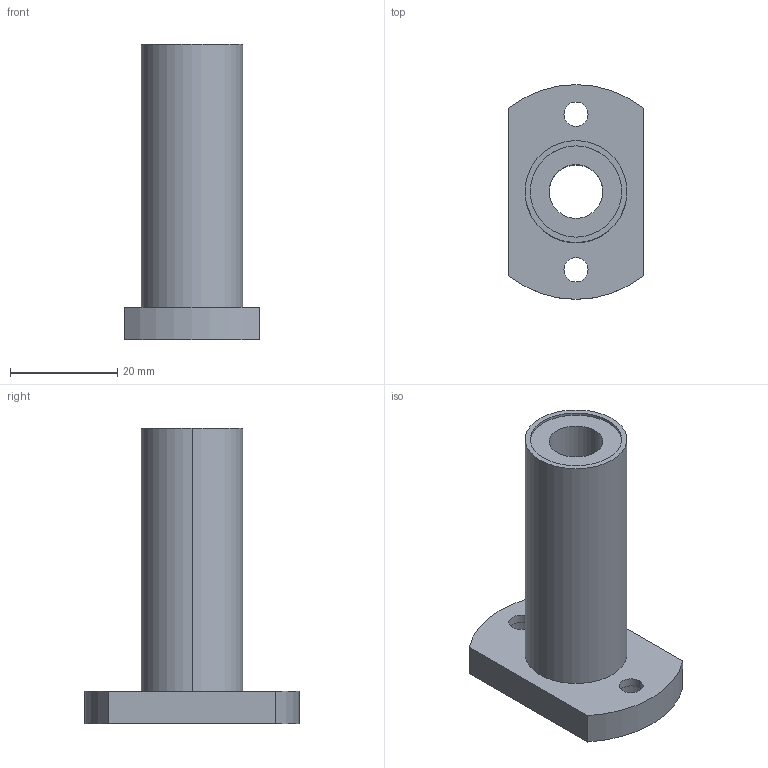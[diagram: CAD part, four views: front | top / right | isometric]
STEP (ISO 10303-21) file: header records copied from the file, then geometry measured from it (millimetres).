
FILE_DESCRIPTION((''),'2;1');
FILE_NAME('C:\Documents and Settings\ｿﾀﾀ蠑ｷ1\ｹﾙﾅﾁ ﾈｭｸ饅\ｺﾎﾇｰﾆﾄﾀﾏ\ﾁｦﾇｰ\LMH__LUU\LMH10LUU.stp','2005-06-15T10:42:41',('ｿﾀﾀ蠑ｷ1'),(''),'Autodesk Inventor 9','Autodesk Inventor 9','');
FILE_SCHEMA(('AUTOMOTIVE_DESIGN { 1 0 10303 214 1 1 1 1 }'));
Length unit declared in the file: millimetre
Products named in the file (1): LMH__
Bounding box: 25 x 40 x 55 mm (x, y, z)
Volume: 14411.6 mm3; surface area: 7294.1 mm2
Topology: 1 solids, 1 shells, 30 faces, 66 edges, 44 vertices
Faces by surface type: cylinder 12, bspline 10, plane 8
Entity records: 989 total; most frequent: CARTESIAN_POINT 283, DIRECTION 148, ORIENTED_EDGE 132, EDGE_CURVE 66, AXIS2_PLACEMENT_3D 61, VERTEX_POINT 44, EDGE_LOOP 42, CIRCLE 40
